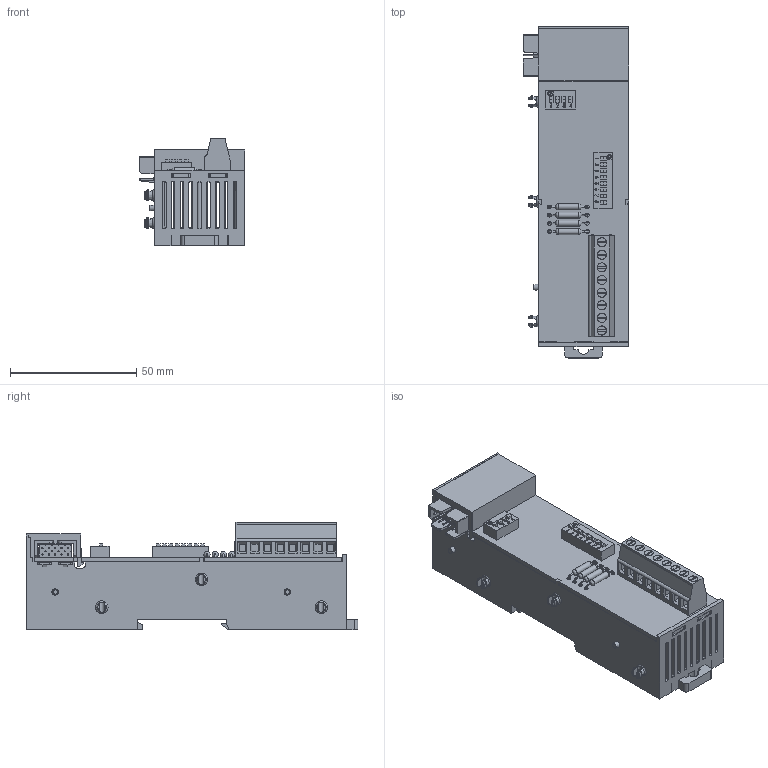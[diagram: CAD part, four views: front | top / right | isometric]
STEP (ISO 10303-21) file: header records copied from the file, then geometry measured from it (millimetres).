
FILE_DESCRIPTION (( 'STEP AP214' ), '1' );
FILE_NAME ('CFADC-A4L_ASM.STEP', '2024-07-26T08:44:57', ( '' ), ( '' ), 'SwSTEP 2.0', 'SolidWorks 2020', '' );
FILE_SCHEMA (( 'AUTOMOTIVE_DESIGN' ));
Length unit declared in the file: millimetre
Products named in the file (1): CFADC-A4L_ASM
Bounding box: 42 x 131.5 x 42.7 mm (x, y, z)
Volume: 42334.7 mm3; surface area: 47038.3 mm2
Topology: 1 solids, 4 shells, 1586 faces, 4221 edges, 2710 vertices
Faces by surface type: plane 1115, cylinder 225, cone 105, bspline 90, torus 51
Full cylindrical faces by diameter (mm): 0.2 x2, 0.5 x56, 1.5 x8, 1.6 x8, 2 x1, 2.4 x4, 3.6 x8, 4.6 x3, 6 x1, 9 x1
Entity records: 53056 total; most frequent: CARTESIAN_POINT 15050, ORIENTED_EDGE 8040, DIRECTION 7175, EDGE_CURVE 4020, VECTOR 3043, LINE 3043, VERTEX_POINT 2666, AXIS2_PLACEMENT_3D 2066
